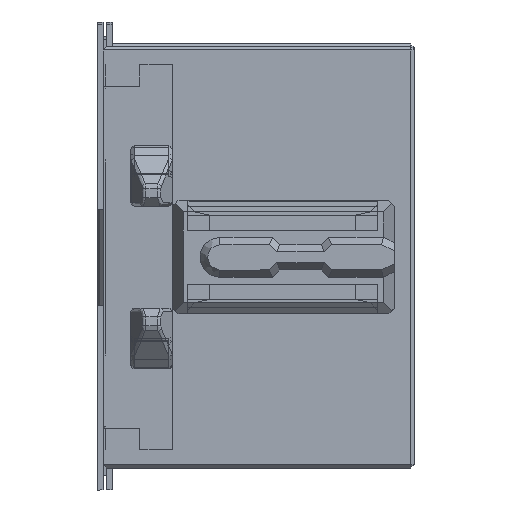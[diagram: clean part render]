
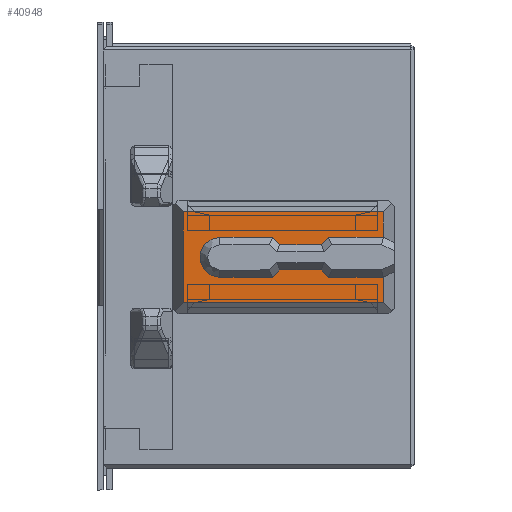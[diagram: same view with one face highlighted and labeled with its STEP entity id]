
A CAD part, left-side view. The second image highlights one B-rep face of the part: STEP entity #40948.
In plain terms, the highlighted planar face has unit normal (-1, 0, 0).
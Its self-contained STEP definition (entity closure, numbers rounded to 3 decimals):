
#530 = CARTESIAN_POINT ( 'NONE',  ( -8.05, 0., -5.8 ) ) ;
#538 = FACE_OUTER_BOUND ( 'NONE', #22294, .T. ) ;
#540 = PLANE ( 'NONE',  #8607 ) ;
#544 = DIRECTION ( 'NONE',  ( -1., 0., 0. ) ) ;
#546 = DIRECTION ( 'NONE',  ( 0., 0., 1. ) ) ;
#8607 = AXIS2_PLACEMENT_3D ( 'NONE', #530, #544, #546 ) ;
#10168 = VERTEX_POINT ( 'NONE', #38930 ) ;
#10344 = VERTEX_POINT ( 'NONE', #39106 ) ;
#10350 = VERTEX_POINT ( 'NONE', #39112 ) ;
#14198 = VERTEX_POINT ( 'NONE', #39263 ) ;
#16132 = VECTOR ( 'NONE', #32744, 1000. ) ;
#16143 = VECTOR ( 'NONE', #32756, 1000. ) ;
#16147 = VECTOR ( 'NONE', #32752, 1000. ) ;
#16150 = VECTOR ( 'NONE', #32762, 1000. ) ;
#16152 = VECTOR ( 'NONE', #32768, 1000. ) ;
#16153 = VECTOR ( 'NONE', #32774, 1000. ) ;
#16155 = VECTOR ( 'NONE', #32780, 1000. ) ;
#16159 = VECTOR ( 'NONE', #32787, 1000. ) ;
#16165 = VECTOR ( 'NONE', #32794, 1000. ) ;
#16170 = VECTOR ( 'NONE', #32799, 1000. ) ;
#16173 = VECTOR ( 'NONE', #32802, 1000. ) ;
#16175 = VECTOR ( 'NONE', #32808, 1000. ) ;
#16177 = CIRCLE ( 'NONE', #16183, 0.55 ) ;
#16181 = VECTOR ( 'NONE', #32820, 1000. ) ;
#16183 = AXIS2_PLACEMENT_3D ( 'NONE', #32815, #32816, #32818 ) ;
#16185 = VECTOR ( 'NONE', #32827, 1000. ) ;
#18331 = ORIENTED_EDGE ( 'NONE', *, *, #26449, .T. ) ;
#18332 = ORIENTED_EDGE ( 'NONE', *, *, #26450, .T. ) ;
#18333 = ORIENTED_EDGE ( 'NONE', *, *, #26451, .T. ) ;
#18334 = ORIENTED_EDGE ( 'NONE', *, *, #26452, .T. ) ;
#18335 = ORIENTED_EDGE ( 'NONE', *, *, #26453, .F. ) ;
#18336 = ORIENTED_EDGE ( 'NONE', *, *, #20022, .F. ) ;
#18337 = ORIENTED_EDGE ( 'NONE', *, *, #26448, .F. ) ;
#18338 = ORIENTED_EDGE ( 'NONE', *, *, #26454, .T. ) ;
#18339 = ORIENTED_EDGE ( 'NONE', *, *, #26455, .T. ) ;
#18340 = ORIENTED_EDGE ( 'NONE', *, *, #26456, .T. ) ;
#18341 = ORIENTED_EDGE ( 'NONE', *, *, #26457, .T. ) ;
#18342 = ORIENTED_EDGE ( 'NONE', *, *, #26458, .T. ) ;
#18343 = ORIENTED_EDGE ( 'NONE', *, *, #26459, .T. ) ;
#18344 = ORIENTED_EDGE ( 'NONE', *, *, #26460, .T. ) ;
#18345 = ORIENTED_EDGE ( 'NONE', *, *, #26461, .T. ) ;
#18346 = ORIENTED_EDGE ( 'NONE', *, *, #26462, .T. ) ;
#20022 = EDGE_CURVE ( 'NONE', #27929, #28019, #29299, .T. ) ;
#22294 = EDGE_LOOP ( 'NONE', ( #18331, #18332, #18333, #18334, #18335, #18336, #18337, #18338, #18339, #18340, #18341, #18342, #18343, #18344, #18345, #18346 ) ) ;
#26448 = EDGE_CURVE ( 'NONE', #10168, #27929, #32741, .T. ) ;
#26449 = EDGE_CURVE ( 'NONE', #10350, #14198, #32746, .T. ) ;
#26450 = EDGE_CURVE ( 'NONE', #14198, #27534, #32730, .T. ) ;
#26451 = EDGE_CURVE ( 'NONE', #27534, #27531, #32758, .T. ) ;
#26452 = EDGE_CURVE ( 'NONE', #27531, #27529, #32764, .T. ) ;
#26453 = EDGE_CURVE ( 'NONE', #28019, #27529, #32770, .T. ) ;
#26454 = EDGE_CURVE ( 'NONE', #10168, #27537, #32776, .T. ) ;
#26455 = EDGE_CURVE ( 'NONE', #27537, #27892, #32782, .T. ) ;
#26456 = EDGE_CURVE ( 'NONE', #27892, #27526, #32789, .T. ) ;
#26457 = EDGE_CURVE ( 'NONE', #27526, #27525, #32796, .T. ) ;
#26458 = EDGE_CURVE ( 'NONE', #27525, #28030, #32800, .T. ) ;
#26459 = EDGE_CURVE ( 'NONE', #28030, #28018, #32804, .T. ) ;
#26460 = EDGE_CURVE ( 'NONE', #28018, #10344, #16177, .T. ) ;
#26461 = EDGE_CURVE ( 'NONE', #10344, #27904, #32748, .T. ) ;
#26462 = EDGE_CURVE ( 'NONE', #27904, #10350, #32822, .T. ) ;
#27525 = VERTEX_POINT ( 'NONE', #32912 ) ;
#27526 = VERTEX_POINT ( 'NONE', #32914 ) ;
#27529 = VERTEX_POINT ( 'NONE', #32919 ) ;
#27531 = VERTEX_POINT ( 'NONE', #32923 ) ;
#27534 = VERTEX_POINT ( 'NONE', #32928 ) ;
#27537 = VERTEX_POINT ( 'NONE', #32933 ) ;
#27892 = VERTEX_POINT ( 'NONE', #33562 ) ;
#27904 = VERTEX_POINT ( 'NONE', #33583 ) ;
#27929 = VERTEX_POINT ( 'NONE', #33629 ) ;
#28018 = VERTEX_POINT ( 'NONE', #35777 ) ;
#28019 = VERTEX_POINT ( 'NONE', #35778 ) ;
#28030 = VERTEX_POINT ( 'NONE', #35789 ) ;
#29299 = LINE ( 'NONE', #29314, #32631 ) ;
#29314 = CARTESIAN_POINT ( 'NONE',  ( -8.05, 2.075, -5.8 ) ) ;
#29315 = DIRECTION ( 'NONE',  ( 0., 0., 1. ) ) ;
#32631 = VECTOR ( 'NONE', #29315, 1000. ) ;
#32701 = CARTESIAN_POINT ( 'NONE',  ( -8.05, 0., -5.25 ) ) ;
#32730 = LINE ( 'NONE', #32753, #16143 ) ;
#32741 = LINE ( 'NONE', #32743, #16132 ) ;
#32743 = CARTESIAN_POINT ( 'NONE',  ( -8.05, -0.675, -7.05 ) ) ;
#32744 = DIRECTION ( 'NONE',  ( 0., 1., 0. ) ) ;
#32746 = LINE ( 'NONE', #32750, #16147 ) ;
#32748 = LINE ( 'NONE', #32701, #16181 ) ;
#32750 = CARTESIAN_POINT ( 'NONE',  ( -8.05, -1.675, -5.45 ) ) ;
#32752 = DIRECTION ( 'NONE',  ( 0., -1., 0. ) ) ;
#32753 = CARTESIAN_POINT ( 'NONE',  ( -8.05, -1.715, -5.45 ) ) ;
#32756 = DIRECTION ( 'NONE',  ( 0., -0.707, 0.707 ) ) ;
#32758 = LINE ( 'NONE', #32761, #16150 ) ;
#32761 = CARTESIAN_POINT ( 'NONE',  ( -8.05, 0., -5.25 ) ) ;
#32762 = DIRECTION ( 'NONE',  ( 0., -1., 0. ) ) ;
#32764 = LINE ( 'NONE', #32767, #16152 ) ;
#32767 = CARTESIAN_POINT ( 'NONE',  ( -8.05, -3.425, -5.8 ) ) ;
#32768 = DIRECTION ( 'NONE',  ( 0., 0., 1. ) ) ;
#32770 = LINE ( 'NONE', #32772, #16153 ) ;
#32772 = CARTESIAN_POINT ( 'NONE',  ( -8.05, -0.675, -4.55 ) ) ;
#32774 = DIRECTION ( 'NONE',  ( 0., -1., 0. ) ) ;
#32776 = LINE ( 'NONE', #32779, #16155 ) ;
#32779 = CARTESIAN_POINT ( 'NONE',  ( -8.05, -3.425, -5.8 ) ) ;
#32780 = DIRECTION ( 'NONE',  ( 0., 0., 1. ) ) ;
#32782 = LINE ( 'NONE', #32785, #16159 ) ;
#32785 = CARTESIAN_POINT ( 'NONE',  ( -8.05, 0., -6.35 ) ) ;
#32787 = DIRECTION ( 'NONE',  ( 0., 1., 0. ) ) ;
#32789 = LINE ( 'NONE', #32792, #16165 ) ;
#32792 = CARTESIAN_POINT ( 'NONE',  ( -8.05, -1.915, -6.35 ) ) ;
#32794 = DIRECTION ( 'NONE',  ( 0., 0.707, 0.707 ) ) ;
#32796 = LINE ( 'NONE', #32797, #16170 ) ;
#32797 = CARTESIAN_POINT ( 'NONE',  ( -8.05, -1.675, -6.15 ) ) ;
#32799 = DIRECTION ( 'NONE',  ( 0., 1., 0. ) ) ;
#32800 = LINE ( 'NONE', #32801, #16173 ) ;
#32801 = CARTESIAN_POINT ( 'NONE',  ( -8.05, -0.575, -6.15 ) ) ;
#32802 = DIRECTION ( 'NONE',  ( 0., 0.707, -0.707 ) ) ;
#32804 = LINE ( 'NONE', #32807, #16175 ) ;
#32807 = CARTESIAN_POINT ( 'NONE',  ( -8.05, 0., -6.35 ) ) ;
#32808 = DIRECTION ( 'NONE',  ( 0., 1., 0. ) ) ;
#32815 = CARTESIAN_POINT ( 'NONE',  ( -8.05, 1.075, -5.8 ) ) ;
#32816 = DIRECTION ( 'NONE',  ( 1., 0., 0. ) ) ;
#32818 = DIRECTION ( 'NONE',  ( 0., 0., 1. ) ) ;
#32820 = DIRECTION ( 'NONE',  ( 0., -1., 0. ) ) ;
#32822 = LINE ( 'NONE', #32825, #16185 ) ;
#32825 = CARTESIAN_POINT ( 'NONE',  ( -8.05, -0.375, -5.25 ) ) ;
#32827 = DIRECTION ( 'NONE',  ( 0., -0.707, -0.707 ) ) ;
#32912 = CARTESIAN_POINT ( 'NONE',  ( -8.05, -0.575, -6.15 ) ) ;
#32914 = CARTESIAN_POINT ( 'NONE',  ( -8.05, -1.715, -6.15 ) ) ;
#32919 = CARTESIAN_POINT ( 'NONE',  ( -8.05, -3.425, -4.55 ) ) ;
#32923 = CARTESIAN_POINT ( 'NONE',  ( -8.05, -3.425, -5.25 ) ) ;
#32928 = CARTESIAN_POINT ( 'NONE',  ( -8.05, -1.915, -5.25 ) ) ;
#32933 = CARTESIAN_POINT ( 'NONE',  ( -8.05, -3.425, -6.35 ) ) ;
#33562 = CARTESIAN_POINT ( 'NONE',  ( -8.05, -1.915, -6.35 ) ) ;
#33583 = CARTESIAN_POINT ( 'NONE',  ( -8.05, -0.375, -5.25 ) ) ;
#33629 = CARTESIAN_POINT ( 'NONE',  ( -8.05, 2.075, -7.05 ) ) ;
#35777 = CARTESIAN_POINT ( 'NONE',  ( -8.05, 1.075, -6.35 ) ) ;
#35778 = CARTESIAN_POINT ( 'NONE',  ( -8.05, 2.075, -4.55 ) ) ;
#35789 = CARTESIAN_POINT ( 'NONE',  ( -8.05, -0.375, -6.35 ) ) ;
#38930 = CARTESIAN_POINT ( 'NONE',  ( -8.05, -3.425, -7.05 ) ) ;
#39106 = CARTESIAN_POINT ( 'NONE',  ( -8.05, 1.075, -5.25 ) ) ;
#39112 = CARTESIAN_POINT ( 'NONE',  ( -8.05, -0.575, -5.45 ) ) ;
#39263 = CARTESIAN_POINT ( 'NONE',  ( -8.05, -1.715, -5.45 ) ) ;
#40948 = ADVANCED_FACE ( 'NONE', ( #538 ), #540, .T. ) ;
